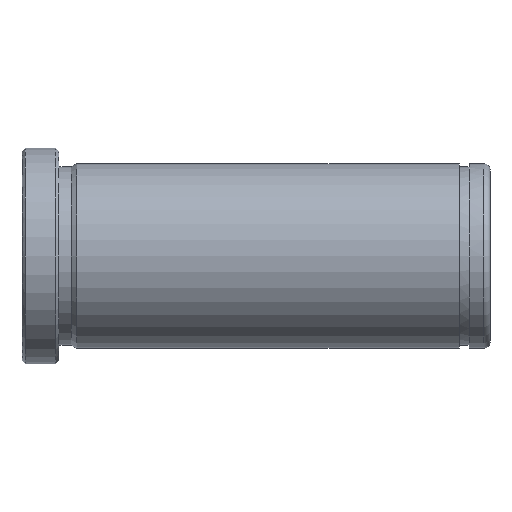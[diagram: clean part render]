
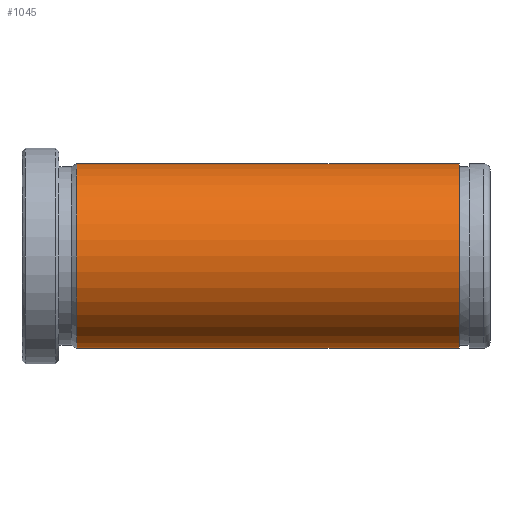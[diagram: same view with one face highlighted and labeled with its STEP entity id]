
A CAD part, front view. The second image highlights one B-rep face of the part: STEP entity #1045.
In plain terms, the highlighted cylindrical face has radius 15 mm (diameter 30 mm), a partial arc.
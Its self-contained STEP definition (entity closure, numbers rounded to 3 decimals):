
#851=CARTESIAN_POINT('Vertex',(8.866,0.,-15.)) ;
#858=CARTESIAN_POINT('Vertex',(8.866,0.,15.)) ;
#887=CARTESIAN_POINT('Axis2P3D Location',(8.866,0.,0.)) ;
#891=CARTESIAN_POINT('Vertex',(8.866,-15.,0.)) ;
#894=CARTESIAN_POINT('Axis2P3D Location',(8.866,0.,0.)) ;
#985=CARTESIAN_POINT('Line Origine',(152.,0.,15.)) ;
#989=CARTESIAN_POINT('Vertex',(71.,0.,15.)) ;
#1003=CARTESIAN_POINT('Vertex',(71.,0.,-15.)) ;
#1006=CARTESIAN_POINT('Line Origine',(152.,0.,-15.)) ;
#1020=CARTESIAN_POINT('Axis2P3D Location',(152.,0.,0.)) ;
#1025=CARTESIAN_POINT('Axis2P3D Location',(71.,0.,0.)) ;
#1029=CARTESIAN_POINT('Vertex',(71.,-15.,0.)) ;
#1032=CARTESIAN_POINT('Axis2P3D Location',(71.,0.,0.)) ;
#888=DIRECTION('Axis2P3D Direction',(1.,0.,-0.)) ;
#895=DIRECTION('Axis2P3D Direction',(1.,0.,-0.)) ;
#986=DIRECTION('Vector Direction',(-1.,0.,0.)) ;
#1007=DIRECTION('Vector Direction',(-1.,0.,0.)) ;
#1021=DIRECTION('Axis2P3D Direction',(-1.,-0.,-0.)) ;
#1022=DIRECTION('Axis2P3D XDirection',(0.,0.,-1.)) ;
#1026=DIRECTION('Axis2P3D Direction',(-1.,-0.,-0.)) ;
#1033=DIRECTION('Axis2P3D Direction',(-1.,-0.,-0.)) ;
#889=AXIS2_PLACEMENT_3D('Circle Axis2P3D',#887,#888,$) ;
#896=AXIS2_PLACEMENT_3D('Circle Axis2P3D',#894,#895,$) ;
#1023=AXIS2_PLACEMENT_3D('Cylinder Axis2P3D',#1020,#1021,#1022) ;
#1027=AXIS2_PLACEMENT_3D('Circle Axis2P3D',#1025,#1026,$) ;
#1034=AXIS2_PLACEMENT_3D('Circle Axis2P3D',#1032,#1033,$) ;
#1038=ORIENTED_EDGE('',*,*,#1010,.T.) ;
#1039=ORIENTED_EDGE('',*,*,#1031,.F.) ;
#1040=ORIENTED_EDGE('',*,*,#1036,.F.) ;
#1041=ORIENTED_EDGE('',*,*,#991,.T.) ;
#1042=ORIENTED_EDGE('',*,*,#898,.T.) ;
#1043=ORIENTED_EDGE('',*,*,#893,.T.) ;
#987=VECTOR('Line Direction',#986,1.) ;
#1008=VECTOR('Line Direction',#1007,1.) ;
#1045=ADVANCED_FACE('553-24X76',(#1044),#1024,.T.) ;
#890=CIRCLE('generated circle',#889,15.) ;
#897=CIRCLE('generated circle',#896,15.) ;
#1028=CIRCLE('generated circle',#1027,15.) ;
#1035=CIRCLE('generated circle',#1034,15.) ;
#1024=CYLINDRICAL_SURFACE('generated cylinder',#1023,15.) ;
#893=EDGE_CURVE('',#892,#852,#890,.T.) ;
#898=EDGE_CURVE('',#859,#892,#897,.T.) ;
#991=EDGE_CURVE('',#990,#859,#988,.T.) ;
#1010=EDGE_CURVE('',#852,#1004,#1009,.F.) ;
#1031=EDGE_CURVE('',#1030,#1004,#1028,.F.) ;
#1036=EDGE_CURVE('',#990,#1030,#1035,.F.) ;
#1037=EDGE_LOOP('',(#1038,#1039,#1040,#1041,#1042,#1043)) ;
#1044=FACE_OUTER_BOUND('',#1037,.T.) ;
#988=LINE('Line',#985,#987) ;
#1009=LINE('Line',#1006,#1008) ;
#852=VERTEX_POINT('',#851) ;
#859=VERTEX_POINT('',#858) ;
#892=VERTEX_POINT('',#891) ;
#990=VERTEX_POINT('',#989) ;
#1004=VERTEX_POINT('',#1003) ;
#1030=VERTEX_POINT('',#1029) ;
